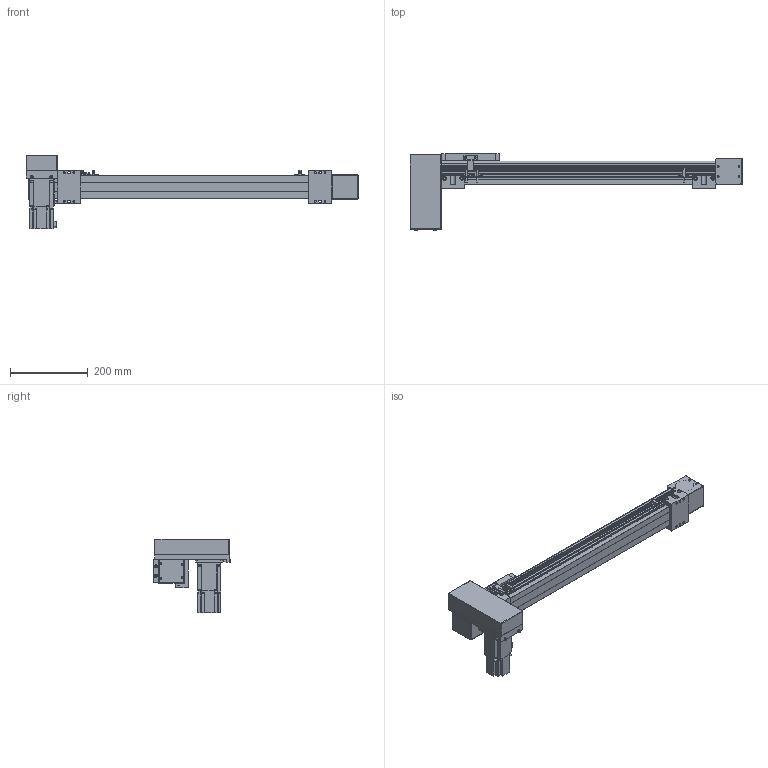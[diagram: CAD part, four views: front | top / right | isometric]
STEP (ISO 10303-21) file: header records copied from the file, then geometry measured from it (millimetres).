
FILE_DESCRIPTION(/* description */ ('STEP AP214'),/* implementation_level */ '2;1');
FILE_NAME(/* name */ 'SK60-P13-S550-RD-T40-C1-N(0)',/* time_stamp */ '2023-04-06T04:55:13+02:00',/* author */ ('License CC BY-ND 4.0'),/* organization */ ('CADENAS'),/* preprocessor_version */ 'ST-DEVELOPER v19.3',/* originating_system */ 'PARTsolutions',/* authorisation */ ' ');
FILE_SCHEMA (('AUTOMOTIVE_DESIGN {1 0 10303 214 3 1 1}'));
Length unit declared in the file: millimetre
Products named in the file (10): SK60-P13-S550-RD-T40-C1-N(0); PSC140-sensor; SK60-S450_seat; SK60-S450-BL-C1_slider; SK60_body3; SK60_body6; SK60-BL_body2; T40-p1; SK60-RD_fb; SK60-S550-RD-C1_body
Assembly tree (16 placements, depth 2):
  SK60-P13-S550-RD-T40-C1-N(0)
    PSC140-sensor  x3
    SK60-S450_seat  x2
    SK60-S450-BL-C1_slider
    SK60_body3  x3
    SK60_body6  x2
    SK60-BL_body2  x2
    T40-p1
    SK60-RD_fb
    SK60-S550-RD-C1_body
Bounding box: 855.5 x 199 x 189.7 mm (x, y, z)
Volume: 4131013.3 mm3; surface area: 547986 mm2
Topology: 16 solids, 16 shells, 810 faces, 2048 edges, 1349 vertices
Faces by surface type: plane 524, cylinder 262, cone 22, torus 2
Full cylindrical faces by diameter (mm): 2.8 x3, 3.3 x4, 4 x2, 4.5 x30, 4.6 x3, 4.917 x16, 5 x6, 5.478 x4, 5.5 x19, 6.5 x4, 7 x2, 8 x4, 8.5 x4, 9.988 x4, 10 x8, 14 x1, 47 x3, 50 x2
Entity records: 18655 total; most frequent: DIRECTION 3184, CARTESIAN_POINT 3150, ORIENTED_EDGE 2940, EDGE_CURVE 1470, AXIS2_PLACEMENT_3D 1068, LINE 1048, VECTOR 1048, VERTEX_POINT 1034
